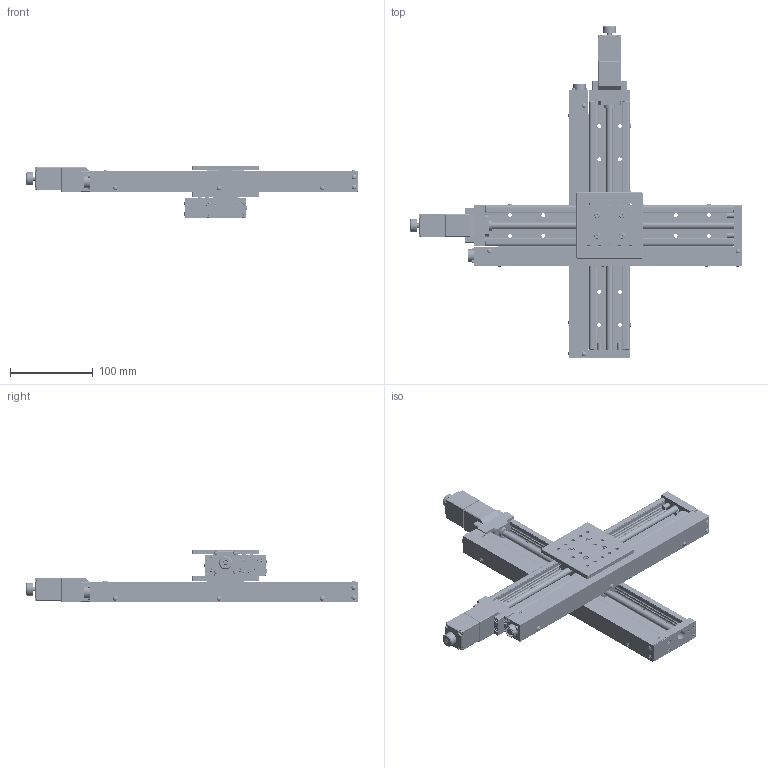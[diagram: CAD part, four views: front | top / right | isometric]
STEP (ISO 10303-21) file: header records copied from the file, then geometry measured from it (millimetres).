
FILE_DESCRIPTION( (''), '2;1');
FILE_NAME ('PM80B-200XY-HQ.stp','2021-02-26T14:06:40',(''),(''),'spGate 15.6.6','','');
FILE_SCHEMA (('AUTOMOTIVE_DESIGN'));
Length unit declared in the file: millimetre
Products named in the file (139): Assembly; PM80B-200XY-HQ-prt0; PM80B-200XY-HQ-prt1; PM80B-200XY-HQ-prt2; PM80B-200XY-HQ-prt3; PM80B-200XY-HQ-prt4; PM80B-200XY-HQ-prt5; PM80B-200XY-HQ-prt6; PM80B-200XY-HQ-prt7; PM80B-200XY-HQ-prt8; PM80B-200XY-HQ-prt9; PM80B-200XY-HQ-prt10; PM80B-200XY-HQ-prt11; PM80B-200XY-HQ-prt12; PM80B-200XY-HQ-prt13; PM80B-200XY-HQ-prt14; PM80B-200XY-HQ-prt15; PM80B-200XY-HQ-prt16; PM80B-200XY-HQ-prt17; PM80B-200XY-HQ-prt18; PM80B-200XY-HQ-prt19; PM80B-200XY-HQ-prt20; PM80B-200XY-HQ-prt21; PM80B-200XY-HQ-prt22; PM80B-200XY-HQ-prt23; PM80B-200XY-HQ-prt24; PM80B-200XY-HQ-prt25; PM80B-200XY-HQ-prt26; PM80B-200XY-HQ-prt27; PM80B-200XY-HQ-prt28; PM80B-200XY-HQ-prt29; PM80B-200XY-HQ-prt30; PM80B-200XY-HQ-prt31; PM80B-200XY-HQ-prt32; PM80B-200XY-HQ-prt33; PM80B-200XY-HQ-prt34; PM80B-200XY-HQ-prt35; PM80B-200XY-HQ-prt36; PM80B-200XY-HQ-prt37; PM80B-200XY-HQ-prt38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
Assembly tree (138 placements, depth 2):
  Assembly
    PM80B-200XY-HQ-prt0
    PM80B-200XY-HQ-prt1
    PM80B-200XY-HQ-prt2
    PM80B-200XY-HQ-prt3
    PM80B-200XY-HQ-prt4
    PM80B-200XY-HQ-prt5
    PM80B-200XY-HQ-prt6
    PM80B-200XY-HQ-prt7
    PM80B-200XY-HQ-prt8
    PM80B-200XY-HQ-prt9
    PM80B-200XY-HQ-prt10
    PM80B-200XY-HQ-prt11
    PM80B-200XY-HQ-prt12
    PM80B-200XY-HQ-prt13
    PM80B-200XY-HQ-prt14
    PM80B-200XY-HQ-prt15
    PM80B-200XY-HQ-prt16
    PM80B-200XY-HQ-prt17
    PM80B-200XY-HQ-prt18
    PM80B-200XY-HQ-prt19
    PM80B-200XY-HQ-prt20
    PM80B-200XY-HQ-prt21
    PM80B-200XY-HQ-prt22
    PM80B-200XY-HQ-prt23
    PM80B-200XY-HQ-prt24
    PM80B-200XY-HQ-prt25
    PM80B-200XY-HQ-prt26
    PM80B-200XY-HQ-prt27
    PM80B-200XY-HQ-prt28
    PM80B-200XY-HQ-prt29
    PM80B-200XY-HQ-prt30
    PM80B-200XY-HQ-prt31
    PM80B-200XY-HQ-prt32
    PM80B-200XY-HQ-prt33
    PM80B-200XY-HQ-prt34
    PM80B-200XY-HQ-prt35
    PM80B-200XY-HQ-prt36
    PM80B-200XY-HQ-prt37
    PM80B-200XY-HQ-prt38
    PM80B-200XY-HQ-prt39
    PM80B-200XY-HQ-prt40
    PM80B-200XY-HQ-prt41
    PM80B-200XY-HQ-prt42
    PM80B-200XY-HQ-prt43
    PM80B-200XY-HQ-prt44
    PM80B-200XY-HQ-prt45
    PM80B-200XY-HQ-prt46
    PM80B-200XY-HQ-prt47
    PM80B-200XY-HQ-prt48
    PM80B-200XY-HQ-prt49
    PM80B-200XY-HQ-prt50
    PM80B-200XY-HQ-prt51
    PM80B-200XY-HQ-prt52
    PM80B-200XY-HQ-prt53
    PM80B-200XY-HQ-prt54
    PM80B-200XY-HQ-prt55
    PM80B-200XY-HQ-prt56
    PM80B-200XY-HQ-prt57
    PM80B-200XY-HQ-prt58
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Bounding box: 401 x 401 x 64 mm (x, y, z)
Volume: 710795.6 mm3; surface area: 448575.3 mm2
Topology: 138 solids, 138 shells, 5670 faces, 13510 edges, 8260 vertices
Faces by surface type: plane 2848, cylinder 1811, bspline 947, sphere 64
Entity records: 288808 total; most frequent: CARTESIAN_POINT 44355, DIRECTION 28090, ORIENTED_EDGE 26286, COLOUR_RGB 18945, PRESENTATION_STYLE_ASSIGNMENT 18945, STYLED_ITEM 18945, EDGE_CURVE 13143, DRAUGHTING_PRE_DEFINED_CURVE_FONT 13143
